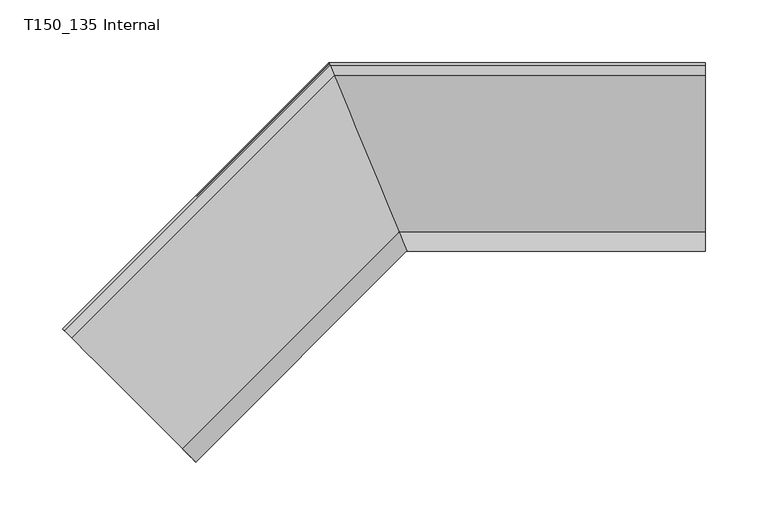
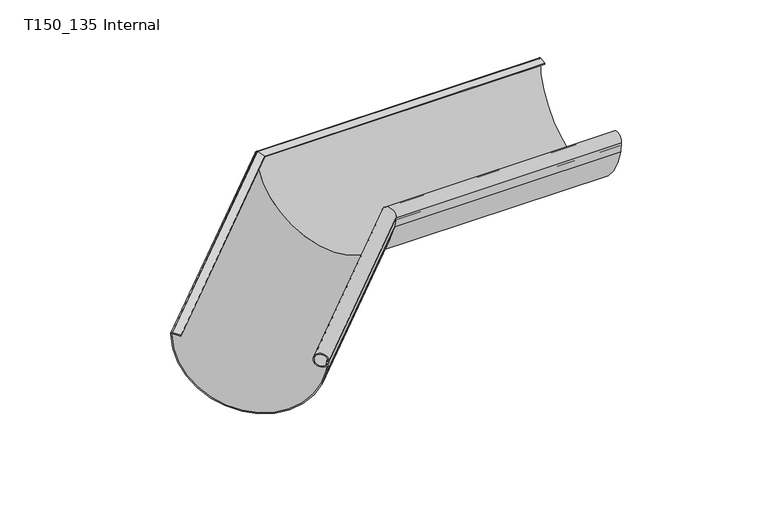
"""IFC4 building model written with IfcOpenShell, lengths in millimetres: proxy geometry, GROVIK_Gutter_Corner : T150_135 Internal."""

from ifc_helpers import new_model, si_unit, frame, origin, place, context, project, spatial, polyline, circle_curve, ellipse_curve, source, transform, mapped, element, save
from ifc_brep_helpers import plane_surface, cylinder_surface, revolved_surface, advanced_brep


def t150_135_internal_beeb1ef1(model_context):
    return source(origin(), model_context, "Body", "AdvancedBrep", [
        advanced_brep(
        [(-210.5763467, -213.687722, -0.0242687), (-212.1320344, -212.1320344, -1.8), (-107.1710723, -317.0929964, -16.2320172), (-106.0660172, -318.1980515, -5.2006666), (-107.768693, -316.4953757, -10.6080252), (-107.2423752, -317.0216935, -9.0063664), (-106.8526601, -317.4114086, -5.5500325), (-107.4802307, -316.783838, -5.4006666), (-107.8801898, -316.3838789, -8.9478528), (-108.2190854, -316.0449833, -9.9710741), (-106.7061636, -317.5579051, -5.3813466), (-107.8635007, -316.400568, -16.0293209), (-211.4227122, -212.8413565, -2.054027), (-210.5074515, -213.7566172, -0.9559749), (-205.212466, -219.0516027, -2.295228), (-205.1004259, -219.1636428, -1.4092855), (4.1775995, -9.8856174, -1.4092855), (0.9698794, -2.1414959, -0.0242687), (4.111968, -9.7271688, -2.295228), (1.0102373, -2.2389285, -0.9559749), (0.4744296, -0.9453744, -2.0540157), (61.1376715, -147.3993958, -16.0293209), (61.8156239, -149.0361176, -5.3813466), (60.9293748, -146.8965231, -9.9710741), (61.1278953, -147.3757938, -8.9478528), (61.3621859, -147.9414214, -5.4006666), (61.7298083, -148.8289403, -5.5500325), (61.5015184, -148.2777999, -9.0063664), (61.1932086, -147.5334741, -10.6080252), (62.190613, -149.9414214, -5.2006666), (61.5432867, -148.3786374, -16.2320172), (0.0585786, 0.0585786, -1.8)],
        [
            (0, 1, circle_curve(frame((-210.7903936, -213.4736751, -1.9), z_axis=(-0.7071067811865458, -0.7071067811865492, 0.0), x_axis=(0.7071067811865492, -0.7071067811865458, 0.0)), 1.9)),
            (1, 2, circle_curve(frame((-159.1025196, -265.1615491, -1.03), z_axis=(-0.7071067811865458, -0.7071067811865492, 0.0), x_axis=(-0.7071067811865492, 0.7071067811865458, 0.0)), 74.9990118)),
            (2, 3),
            (3, 4, circle_curve(frame((-111.369318, -312.8947507, -5.1006666), z_axis=(-0.7071067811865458, -0.7071067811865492, 0.0), x_axis=(0.7071067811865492, -0.7071067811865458, 0.0)), 7.5006666)),
            (4, 5, circle_curve(frame((-109.4980235, -314.7660452, -8.4977001), z_axis=(-0.7071067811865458, -0.7071067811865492, 0.0), x_axis=(0.7071067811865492, -0.7071067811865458, 0.0)), 3.2302694)),
            (5, 6),
            (6, 7),
            (7, 8),
            (8, 9, circle_curve(frame((-109.3080964, -314.9559723, -8.6258487), z_axis=(0.7071067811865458, 0.7071067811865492, 0.0), x_axis=(0.7071067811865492, -0.7071067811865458, 0.0)), 2.0448768)),
            (9, 10, circle_curve(frame((-111.369318, -312.8947507, -5.1006666), z_axis=(0.7071067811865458, 0.7071067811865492, 0.0), x_axis=(0.7071067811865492, -0.7071067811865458, 0.0)), 6.6006666)),
            (10, 11),
            (11, 12, circle_curve(frame((-159.1025196, -265.1615491, -1.03), z_axis=(0.7071067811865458, 0.7071067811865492, 0.0), x_axis=(-0.7071067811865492, 0.7071067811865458, 0.0)), 73.9990118)),
            (12, 13, circle_curve(frame((-210.6443893, -213.6196794, -2.0387934), z_axis=(0.7071067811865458, 0.7071067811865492, 0.0), x_axis=(0.7071067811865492, -0.7071067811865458, 0.0)), 1.1)),
            (13, 14),
            (14, 15),
            (15, 0),
            (15, 16),
            (16, 17),
            (17, 0),
            (14, 18),
            (18, 16),
            (13, 19),
            (19, 18),
            (12, 20),
            (20, 19, ellipse_curve(frame((0.9300209, -2.0452691, -2.0387934), z_axis=(0.9238795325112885, 0.3826834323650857, 0.0), x_axis=(-0.38268343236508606, 0.9238795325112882, 0.0)), 1.1906314, 1.1)),
            (11, 21),
            (21, 20, ellipse_curve(frame((31.1225492, -74.9364803, -1.03), z_axis=(0.9238795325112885, 0.3826834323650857, 0.0), x_axis=(-0.38268343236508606, 0.9238795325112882, 0.0)), 80.0959532, 73.9990118)),
            (10, 22),
            (22, 21),
            (9, 23),
            (23, 22, ellipse_curve(frame((59.0840113, -142.4414214, -5.1006666), z_axis=(0.9238795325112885, 0.3826834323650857, 0.0), x_axis=(-0.38268343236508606, 0.9238795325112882, 0.0)), 7.1445101, 6.6006666)),
            (8, 24),
            (24, 23, ellipse_curve(frame((60.291447, -145.3564289, -8.6258487), z_axis=(0.9238795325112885, 0.3826834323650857, 0.0), x_axis=(-0.38268343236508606, 0.9238795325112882, 0.0)), 2.2133587, 2.0448768)),
            (7, 25),
            (25, 24),
            (6, 26),
            (26, 25),
            (5, 27),
            (27, 26),
            (4, 28),
            (28, 27, ellipse_curve(frame((60.1801902, -145.0878314, -8.4977001), z_axis=(-0.9238795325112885, -0.3826834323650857, 0.0), x_axis=(0.38268343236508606, -0.9238795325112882, 0.0)), 3.4964184, 3.2302694)),
            (3, 29),
            (29, 28, ellipse_curve(frame((59.0840113, -142.4414214, -5.1006666), z_axis=(-0.9238795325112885, -0.3826834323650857, 0.0), x_axis=(0.38268343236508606, -0.9238795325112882, 0.0)), 8.1186631, 7.5006666)),
            (2, 30),
            (30, 29),
            (1, 31),
            (31, 30, ellipse_curve(frame((31.1225492, -74.9364803, -1.03), z_axis=(-0.9238795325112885, -0.3826834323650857, 0.0), x_axis=(0.38268343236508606, -0.9238795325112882, 0.0)), 81.1783454, 74.9990118)),
            (17, 31, ellipse_curve(frame((0.8444936, -1.838788, -1.9), z_axis=(-0.9238795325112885, -0.3826834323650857, 0.0), x_axis=(0.38268343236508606, -0.9238795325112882, 0.0)), 2.0565452, 1.9)),
        ],
        [
            plane_surface(frame((-212.1320344, -212.1320344, 0.0), z_axis=(-0.7071067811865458, -0.7071067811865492, 0.0), x_axis=(0.0, 0.0, 1.0))),
            plane_surface(frame((-210.5763467, -213.687722, -0.0242687), z_axis=(0.12448897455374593, -0.12448897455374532, 0.9843805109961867), x_axis=(0.7071067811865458, 0.7071067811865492, 0.0))),
            plane_surface(frame((-205.1004259, -219.1636428, -1.4092855), z_axis=(0.6960621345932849, -0.6960621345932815, -0.1760539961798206), x_axis=(0.7071067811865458, 0.7071067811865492, 0.0))),
            plane_surface(frame((-205.212466, -219.0516027, -2.295228), z_axis=(-0.12448897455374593, 0.12448897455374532, -0.9843805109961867), x_axis=(0.7071067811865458, 0.7071067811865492, 0.0))),
            revolved_surface(polyline([(2.030020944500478, -2.5009040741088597, -2.0387934), (-209.8665718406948, -214.3974968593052, -2.0387934)]), (-210.6443893, -213.6196794, -2.0387934), (0.7071067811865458, 0.7071067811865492, 0.0)),
            revolved_surface(polyline([(0.4711549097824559, -0.9374685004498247, -1.03), (-211.42772264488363, -212.83634605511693, -1.03)]), (-159.1025196, -265.1615491, -1.03), (0.7071067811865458, 0.7071067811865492, 0.0)),
            plane_surface(frame((-107.8635007, -316.400568, -16.0293209), z_axis=(-0.6988984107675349, 0.6988984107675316, 0.15192768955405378), x_axis=(0.7071067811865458, 0.7071067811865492, 0.0))),
            revolved_surface(polyline([(65.68467791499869, -145.17550701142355, -5.1006666), (-106.70194188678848, -317.5621268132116, -5.1006666)]), (-111.369318, -312.8947507, -5.1006666), (0.7071067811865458, 0.7071067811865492, 0.0)),
            revolved_surface(polyline([(62.33632380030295, -146.20344460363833, -8.6258487), (-107.86215014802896, -316.40191855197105, -8.6258487)]), (-109.3080964, -314.9559723, -8.6258487), (0.7071067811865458, 0.7071067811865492, 0.0)),
            plane_surface(frame((-107.8801898, -316.3838789, -8.9478528), z_axis=(-0.6982849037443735, 0.69828490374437, 0.15746868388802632), x_axis=(0.7071067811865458, 0.7071067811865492, 0.0))),
            plane_surface(frame((-107.4802307, -316.783838, -5.4006666), z_axis=(0.11735288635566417, -0.1173528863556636, 0.9861321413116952), x_axis=(0.7071067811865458, 0.7071067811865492, 0.0))),
            plane_surface(frame((-106.8526601, -317.4114086, -5.5500325), z_axis=(0.698284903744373, -0.6982849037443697, -0.15746868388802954), x_axis=(0.7071067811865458, 0.7071067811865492, 0.0))),
            cylinder_surface(frame((-109.4980235, -314.7660452, -8.4977001), z_axis=(-0.7071067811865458, -0.7071067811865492, 0.0), x_axis=(0.7071067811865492, -0.7071067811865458, 0.0)), 3.2302694),
            cylinder_surface(frame((-111.369318, -312.8947507, -5.1006666), z_axis=(-0.7071067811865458, -0.7071067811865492, 0.0), x_axis=(0.7071067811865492, -0.7071067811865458, 0.0)), 7.5006666),
            plane_surface(frame((-106.0660172, -318.1980515, -5.2006666), z_axis=(0.7001161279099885, -0.7001161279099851, -0.14026694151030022), x_axis=(0.7071067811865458, 0.7071067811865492, 0.0))),
            cylinder_surface(frame((-159.1025196, -265.1615491, -1.03), z_axis=(-0.7071067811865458, -0.7071067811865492, 0.0), x_axis=(-0.7071067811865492, 0.7071067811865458, 0.0)), 74.9990118),
            cylinder_surface(frame((-210.7903936, -213.4736751, -1.9), z_axis=(-0.7071067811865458, -0.7071067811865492, 0.0), x_axis=(0.7071067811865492, -0.7071067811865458, 0.0)), 1.9),
            plane_surface(frame((62.2734557, -150.1414214, 250.0), z_axis=(0.9238795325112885, 0.3826834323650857, 0.0), x_axis=(0.0, 0.0, -1.0))),
        ],
        [
            (0, [[1, 2, 3, 4, 5, 6, 7, 8, 9, 10, 11, 12, 13, 14, 15, 16]]),
            (1, [[17, 18, 19, -16]]),
            (2, [[20, 21, -17, -15]]),
            (3, [[22, 23, -20, -14]]),
            (4, [[24, 25, -22, -13]]),
            (5, [[26, 27, -24, -12]]),
            (6, [[28, 29, -26, -11]]),
            (7, [[30, 31, -28, -10]]),
            (8, [[32, 33, -30, -9]]),
            (9, [[34, 35, -32, -8]]),
            (10, [[36, 37, -34, -7]]),
            (11, [[38, 39, -36, -6]]),
            (12, [[40, 41, -38, -5]]),
            (13, [[42, 43, -40, -4]]),
            (14, [[44, 45, -42, -3]]),
            (15, [[46, 47, -44, -2]]),
            (16, [[-19, 48, -46, -1]]),
            (17, [[-21, -23, -25, -27, -29, -31, -33, -35, -37, -39, -41, -43, -45, -47, -48, -18]]),
        ],
    ),
        advanced_brep(
        [(300.0, -2.2000746, -0.0242687), (300.0, -9.9441961, -1.4092855), (300.0, -9.7857475, -2.295228), (300.0, -2.2975071, -0.9559749), (300.0, -1.0039531, -2.0540157), (300.0, -147.4579744, -16.0293209), (300.0, -149.0946963, -5.3813466), (300.0, -146.9551017, -9.9710741), (300.0, -147.4343725, -8.9478528), (300.0, -148.0, -5.4006666), (300.0, -148.8875189, -5.5500325), (300.0, -148.3363785, -9.0063664), (300.0, -147.5920528, -10.6080252), (300.0, -150.0, -5.2006666), (300.0, -148.4372161, -16.2320172), (300.0, 0.0, -1.8), (0.828458, -2.2000746, -0.0242687), (4.0361782, -9.9441961, -1.4092855), (3.9705466, -9.7857475, -2.295228), (0.8688159, -2.2975071, -0.9559749), (0.3330083, -1.0039531, -2.0540157), (60.9962502, -147.4579744, -16.0293209), (61.6742026, -149.0946963, -5.3813466), (60.7879535, -146.9551017, -9.9710741), (60.9864739, -147.4343725, -8.9478528), (61.2207645, -148.0, -5.4006666), (61.5883869, -148.8875189, -5.5500325), (61.3600971, -148.3363785, -9.0063664), (61.0517873, -147.5920528, -10.6080252), (62.0491916, -150.0, -5.2006666), (61.4018654, -148.4372161, -16.2320172), (-0.0828427, 0.0, -1.8)],
        [
            (0, 1),
            (1, 2),
            (2, 3),
            (3, 4, circle_curve(frame((300.0, -2.1038477, -2.0387934), z_axis=(-1.0, 0.0, 0.0), x_axis=(0.0, -1.0, 0.0)), 1.1)),
            (4, 5, circle_curve(frame((300.0, -74.995059, -1.03), z_axis=(-1.0, 0.0, 0.0), x_axis=(0.0, 1.0, 0.0)), 73.9990118)),
            (5, 6),
            (6, 7, circle_curve(frame((300.0, -142.5, -5.1006666), z_axis=(-1.0, 0.0, 0.0), x_axis=(0.0, -1.0, 0.0)), 6.6006666)),
            (7, 8, circle_curve(frame((300.0, -145.4150076, -8.6258487), z_axis=(-1.0, 0.0, 0.0), x_axis=(0.0, -1.0, 0.0)), 2.0448768)),
            (8, 9),
            (9, 10),
            (10, 11),
            (11, 12, circle_curve(frame((300.0, -145.1464101, -8.4977001), z_axis=(1.0, 0.0, 0.0), x_axis=(0.0, -1.0, 0.0)), 3.2302694)),
            (12, 13, circle_curve(frame((300.0, -142.5, -5.1006666), z_axis=(1.0, 0.0, 0.0), x_axis=(0.0, -1.0, 0.0)), 7.5006666)),
            (13, 14),
            (14, 15, circle_curve(frame((300.0, -74.995059, -1.03), z_axis=(1.0, 0.0, 0.0), x_axis=(0.0, 1.0, 0.0)), 74.9990118)),
            (15, 0, circle_curve(frame((300.0, -1.8973666, -1.9), z_axis=(1.0, 0.0, 0.0), x_axis=(0.0, -1.0, 0.0)), 1.9)),
            (0, 16),
            (16, 17),
            (17, 1),
            (17, 18),
            (18, 2),
            (18, 19),
            (19, 3),
            (19, 20, ellipse_curve(frame((0.7885996, -2.1038477, -2.0387934), z_axis=(-0.9238795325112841, -0.38268343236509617, 0.0), x_axis=(-0.3826834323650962, 0.923879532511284, 0.0)), 1.1906314, 1.1)),
            (20, 4),
            (20, 21, ellipse_curve(frame((30.9811278, -74.995059, -1.03), z_axis=(-0.9238795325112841, -0.38268343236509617, 0.0), x_axis=(-0.3826834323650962, 0.923879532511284, 0.0)), 80.0959532, 73.9990118)),
            (21, 5),
            (21, 22),
            (22, 6),
            (22, 23, ellipse_curve(frame((58.9425899, -142.5, -5.1006666), z_axis=(-0.9238795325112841, -0.38268343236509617, 0.0), x_axis=(-0.3826834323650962, 0.923879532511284, 0.0)), 7.1445101, 6.6006666)),
            (23, 7),
            (23, 24, ellipse_curve(frame((60.1500256, -145.4150076, -8.6258487), z_axis=(-0.9238795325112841, -0.38268343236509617, 0.0), x_axis=(-0.3826834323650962, 0.923879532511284, 0.0)), 2.2133587, 2.0448768)),
            (24, 8),
            (24, 25),
            (25, 9),
            (25, 26),
            (26, 10),
            (26, 27),
            (27, 11),
            (27, 28, ellipse_curve(frame((60.0387689, -145.1464101, -8.4977001), z_axis=(0.9238795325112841, 0.38268343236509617, 0.0), x_axis=(0.3826834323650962, -0.923879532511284, 0.0)), 3.4964184, 3.2302694)),
            (28, 12),
            (28, 29, ellipse_curve(frame((58.9425899, -142.5, -5.1006666), z_axis=(0.9238795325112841, 0.38268343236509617, 0.0), x_axis=(0.3826834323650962, -0.923879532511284, 0.0)), 8.1186631, 7.5006666)),
            (29, 13),
            (29, 30),
            (30, 14),
            (30, 31, ellipse_curve(frame((30.9811278, -74.995059, -1.03), z_axis=(0.9238795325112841, 0.38268343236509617, 0.0), x_axis=(0.3826834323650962, -0.923879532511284, 0.0)), 81.1783454, 74.9990118)),
            (31, 15),
            (31, 16, ellipse_curve(frame((0.7030723, -1.8973666, -1.9), z_axis=(0.9238795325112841, 0.38268343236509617, 0.0), x_axis=(0.3826834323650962, -0.923879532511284, 0.0)), 2.0565452, 1.9)),
        ],
        [
            plane_surface(frame((300.0, 0.0, 0.0), z_axis=(1.0, 0.0, 0.0), x_axis=(0.0, 0.0, 1.0))),
            plane_surface(frame((300.0, -2.2000746, -0.0242687), z_axis=(0.0, -0.17605399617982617, 0.9843805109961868), x_axis=(-1.0, 0.0, 0.0))),
            plane_surface(frame((300.0, -9.9441961, -1.4092855), z_axis=(0.0, -0.9843805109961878, -0.1760539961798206), x_axis=(-1.0, 0.0, 0.0))),
            plane_surface(frame((300.0, -9.7857475, -2.295228), z_axis=(0.0, 0.17605399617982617, -0.9843805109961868), x_axis=(-1.0, 0.0, 0.0))),
            revolved_surface(polyline([(0.3329646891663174, -3.2038477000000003, -2.0387934), (300.0, -3.2038477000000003, -2.0387934)]), (300.0, -2.1038477, -2.0387934), (-1.0, 0.0, 0.0)),
            revolved_surface(polyline([(0.3297335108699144, -0.9960471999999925, -1.03), (300.0, -0.9960471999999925, -1.03)]), (300.0, -74.995059, -1.03), (-1.0, 0.0, 0.0)),
            plane_surface(frame((300.0, -147.4579744, -16.0293209), z_axis=(0.0, 0.9883916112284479, 0.15192768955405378), x_axis=(-1.0, 0.0, 0.0))),
            revolved_surface(polyline([(56.20850425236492, -149.1006666, -5.1006666), (300.0, -149.1006666, -5.1006666)]), (300.0, -142.5, -5.1006666), (-1.0, 0.0, 0.0)),
            revolved_surface(polyline([(59.30300989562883, -147.4598844, -8.6258487), (300.0, -147.4598844, -8.6258487)]), (300.0, -145.4150076, -8.6258487), (-1.0, 0.0, 0.0)),
            plane_surface(frame((300.0, -147.4343725, -8.9478528), z_axis=(0.0, 0.9875239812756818, 0.1574686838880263), x_axis=(-1.0, 0.0, 0.0))),
            plane_surface(frame((300.0, -148.0, -5.4006666), z_axis=(0.0, -0.1659620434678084, 0.9861321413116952), x_axis=(-1.0, 0.0, 0.0))),
            plane_surface(frame((300.0, -148.8875189, -5.5500325), z_axis=(0.0, -0.9875239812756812, -0.15746868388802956), x_axis=(-1.0, 0.0, 0.0))),
            cylinder_surface(frame((300.0, -145.1464101, -8.4977001), z_axis=(1.0, 0.0, 0.0), x_axis=(0.0, -1.0, 0.0)), 3.2302694),
            cylinder_surface(frame((300.0, -142.5, -5.1006666), z_axis=(1.0, 0.0, 0.0), x_axis=(0.0, -1.0, 0.0)), 7.5006666),
            plane_surface(frame((300.0, -150.0, -5.2006666), z_axis=(0.0, -0.9901137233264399, -0.14026694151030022), x_axis=(-1.0, 0.0, 0.0))),
            cylinder_surface(frame((300.0, -74.995059, -1.03), z_axis=(1.0, 0.0, 0.0), x_axis=(0.0, 1.0, 0.0)), 74.9990118),
            cylinder_surface(frame((300.0, -1.8973666, -1.9), z_axis=(1.0, 0.0, 0.0), x_axis=(0.0, -1.0, 0.0)), 1.9),
            plane_surface(frame((62.1320344, -150.2, 250.0), z_axis=(-0.9238795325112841, -0.38268343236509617, 0.0), x_axis=(0.0, 0.0, -1.0))),
        ],
        [
            (0, [[1, 2, 3, 4, 5, 6, 7, 8, 9, 10, 11, 12, 13, 14, 15, 16]]),
            (1, [[-1, 17, 18, 19]]),
            (2, [[-2, -19, 20, 21]]),
            (3, [[-3, -21, 22, 23]]),
            (4, [[-4, -23, 24, 25]]),
            (5, [[-5, -25, 26, 27]]),
            (6, [[-6, -27, 28, 29]]),
            (7, [[-7, -29, 30, 31]]),
            (8, [[-8, -31, 32, 33]]),
            (9, [[-9, -33, 34, 35]]),
            (10, [[-10, -35, 36, 37]]),
            (11, [[-11, -37, 38, 39]]),
            (12, [[-12, -39, 40, 41]]),
            (13, [[-13, -41, 42, 43]]),
            (14, [[-14, -43, 44, 45]]),
            (15, [[-15, -45, 46, 47]]),
            (16, [[-16, -47, 48, -17]]),
            (17, [[-18, -48, -46, -44, -42, -40, -38, -36, -34, -32, -30, -28, -26, -24, -22, -20]]),
        ],
    ),
    ])


if __name__ == "__main__":
    model = new_model("IFC4")
    model_context = context("Model", 3, world=origin())
    ifc_project = project(units=[si_unit("LENGTHUNIT", "METRE", prefix="MILLI")], contexts=[model_context])
    site = spatial("IfcSite", under=ifc_project)
    building = spatial("IfcBuilding", under=site)
    placement = place(None, origin())
    t150_135_internal_shape = t150_135_internal_beeb1ef1(model_context)
    element("IfcBuildingElementProxy", 1, Name="GROVIK_Gutter_Corner : T150_135 Internal", ObjectType="GROVIK_Gutter_Corner : T150_135 Internal", at=placement, inside=building, context=model_context, shape_type="MappedRepresentation", body=[
        mapped(t150_135_internal_shape, transform((0.0, 0.0, 0.0), x_axis=(1.0, 0.0, 0.0), y_axis=(0.0, 1.0, 0.0), z_axis=(0.0, 0.0, 1.0))),
    ])
    save(model, "model.ifc")
